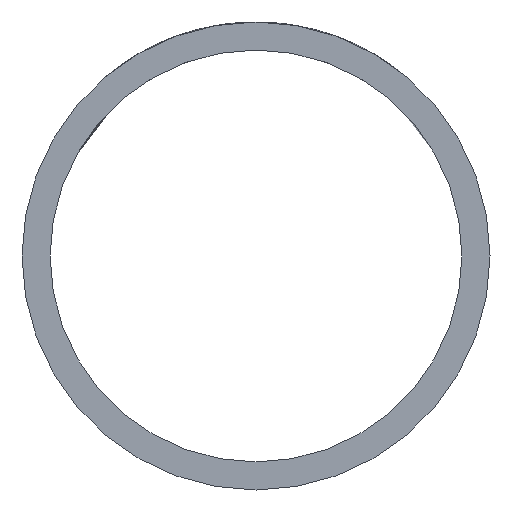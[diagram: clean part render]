
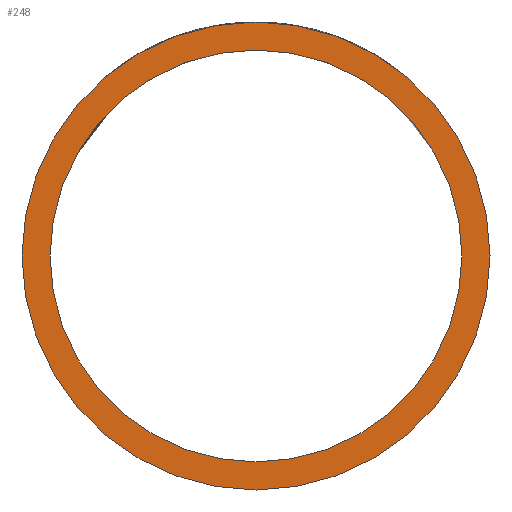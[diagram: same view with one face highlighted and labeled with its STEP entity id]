
A CAD part, front view. The second image highlights one B-rep face of the part: STEP entity #248.
In plain terms, the highlighted planar face has unit normal (0, -1, 0).
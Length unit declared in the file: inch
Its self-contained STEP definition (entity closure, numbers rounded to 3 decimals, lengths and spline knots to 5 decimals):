
#118 = EDGE_LOOP ( 'NONE', ( #1583, #1601 ) ) ;
#119 = EDGE_LOOP ( 'NONE', ( #1587, #1580 ) ) ;
#248 = ADVANCED_FACE ( 'NONE', ( #1435, #1444 ), #1631, .F. ) ;
#425 = DIRECTION ( 'NONE',  ( 1., 0., 0. ) ) ;
#436 = CARTESIAN_POINT ( 'NONE',  ( 0., 0., 0. ) ) ;
#439 = DIRECTION ( 'NONE',  ( 0., 1., 0. ) ) ;
#494 = DIRECTION ( 'NONE',  ( 1., 0., 0. ) ) ;
#617 = CARTESIAN_POINT ( 'NONE',  ( 0., 0., 0. ) ) ;
#629 = DIRECTION ( 'NONE',  ( 0., 1., 0. ) ) ;
#822 = EDGE_CURVE ( 'NONE', #1379, #1422, #1439, .T. ) ;
#826 = EDGE_CURVE ( 'NONE', #1422, #1379, #1449, .T. ) ;
#831 = EDGE_CURVE ( 'NONE', #1400, #1430, #1481, .T. ) ;
#850 = AXIS2_PLACEMENT_3D ( 'NONE', #1642, #1638, #1634 ) ;
#892 = EDGE_CURVE ( 'NONE', #1430, #1400, #1547, .T. ) ;
#905 = AXIS2_PLACEMENT_3D ( 'NONE', #1093, #1121, #1104 ) ;
#923 = AXIS2_PLACEMENT_3D ( 'NONE', #1040, #1043, #1023 ) ;
#925 = AXIS2_PLACEMENT_3D ( 'NONE', #436, #439, #425 ) ;
#927 = AXIS2_PLACEMENT_3D ( 'NONE', #617, #629, #494 ) ;
#1023 = DIRECTION ( 'NONE',  ( 0., 0., 1. ) ) ;
#1040 = CARTESIAN_POINT ( 'NONE',  ( 0., 0., 0. ) ) ;
#1043 = DIRECTION ( 'NONE',  ( 0., 1., 0. ) ) ;
#1093 = CARTESIAN_POINT ( 'NONE',  ( 0., 0., 0. ) ) ;
#1104 = DIRECTION ( 'NONE',  ( 0., 0., 1. ) ) ;
#1121 = DIRECTION ( 'NONE',  ( 0., 1., 0. ) ) ;
#1204 = CARTESIAN_POINT ( 'NONE',  ( 0., 0., 1. ) ) ;
#1220 = CARTESIAN_POINT ( 'NONE',  ( 0., 0., 0.88 ) ) ;
#1221 = CARTESIAN_POINT ( 'NONE',  ( 0., 0., -1. ) ) ;
#1237 = CARTESIAN_POINT ( 'NONE',  ( 0., 0., -0.88 ) ) ;
#1379 = VERTEX_POINT ( 'NONE', #1204 ) ;
#1400 = VERTEX_POINT ( 'NONE', #1220 ) ;
#1422 = VERTEX_POINT ( 'NONE', #1221 ) ;
#1430 = VERTEX_POINT ( 'NONE', #1237 ) ;
#1435 = FACE_OUTER_BOUND ( 'NONE', #119, .T. ) ;
#1439 = CIRCLE ( 'NONE', #923, 1. ) ;
#1444 = FACE_BOUND ( 'NONE', #118, .T. ) ;
#1449 = CIRCLE ( 'NONE', #905, 1. ) ;
#1481 = CIRCLE ( 'NONE', #925, 0.88 ) ;
#1547 = CIRCLE ( 'NONE', #927, 0.88 ) ;
#1580 = ORIENTED_EDGE ( 'NONE', *, *, #822, .F. ) ;
#1583 = ORIENTED_EDGE ( 'NONE', *, *, #892, .T. ) ;
#1587 = ORIENTED_EDGE ( 'NONE', *, *, #826, .F. ) ;
#1601 = ORIENTED_EDGE ( 'NONE', *, *, #831, .T. ) ;
#1631 = PLANE ( 'NONE',  #850 ) ;
#1634 = DIRECTION ( 'NONE',  ( 0., 0., 1. ) ) ;
#1638 = DIRECTION ( 'NONE',  ( 0., 1., 0. ) ) ;
#1642 = CARTESIAN_POINT ( 'NONE',  ( 0., 0., 0. ) ) ;
